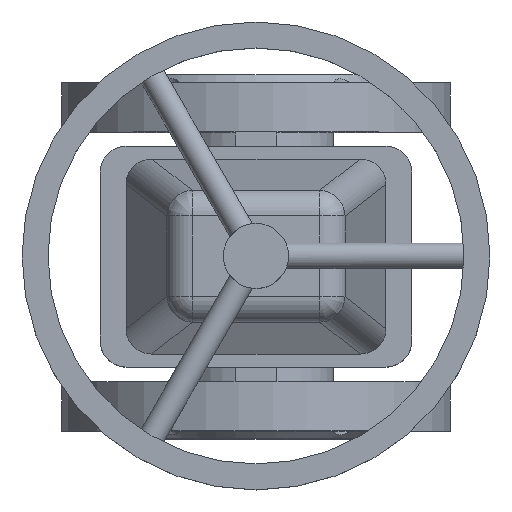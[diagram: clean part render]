
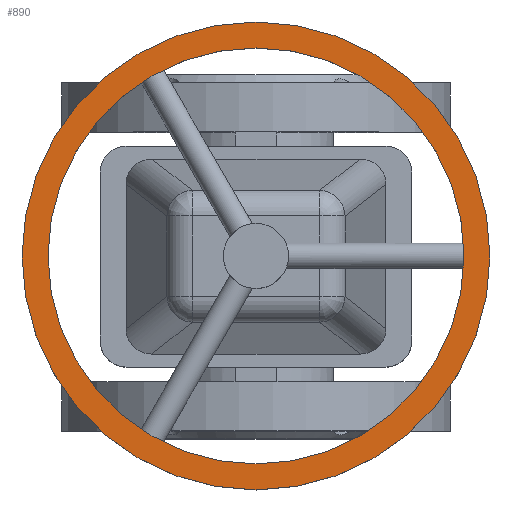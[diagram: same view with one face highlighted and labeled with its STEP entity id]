
A CAD part, top view. The second image highlights one B-rep face of the part: STEP entity #890.
In plain terms, the highlighted planar face has unit normal (0, 0, 1).
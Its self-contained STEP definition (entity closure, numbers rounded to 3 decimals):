
#890=ADVANCED_FACE('',(#1922,#1924),#1926,.T.);
#1922=FACE_BOUND('',#1923,.T.);
#1923=EDGE_LOOP('',(#2419));
#1924=FACE_BOUND('',#1925,.T.);
#1925=EDGE_LOOP('',(#2420));
#1926=PLANE('',#1927);
#1927=AXIS2_PLACEMENT_3D('',#1928,#1929,#1930);
#1928=CARTESIAN_POINT('',(0.,0.,237.5));
#1929=DIRECTION('',(0.,0.,1.));
#1930=DIRECTION('',(0.,-1.,0.));
#2419=ORIENTED_EDGE('',*,*,#2661,.T.);
#2420=ORIENTED_EDGE('',*,*,#2659,.T.);
#2659=EDGE_CURVE('',#3057,#3057,#3058,.F.);
#2661=EDGE_CURVE('',#3061,#3061,#3062,.T.);
#3057=VERTEX_POINT('',#5371);
#3058=CIRCLE('',#5372,80.);
#3061=VERTEX_POINT('',#5381);
#3062=CIRCLE('',#5382,90.);
#5371=CARTESIAN_POINT('',(0.,-80.,237.5));
#5372=AXIS2_PLACEMENT_3D('',#5373,#5374,#5375);
#5373=CARTESIAN_POINT('',(0.,0.,237.5));
#5374=DIRECTION('',(0.,0.,1.));
#5375=DIRECTION('',(0.,-1.,0.));
#5381=CARTESIAN_POINT('',(0.,-90.,237.5));
#5382=AXIS2_PLACEMENT_3D('',#5383,#5384,#5385);
#5383=CARTESIAN_POINT('',(0.,0.,237.5));
#5384=DIRECTION('',(0.,0.,1.));
#5385=DIRECTION('',(0.,-1.,0.));
